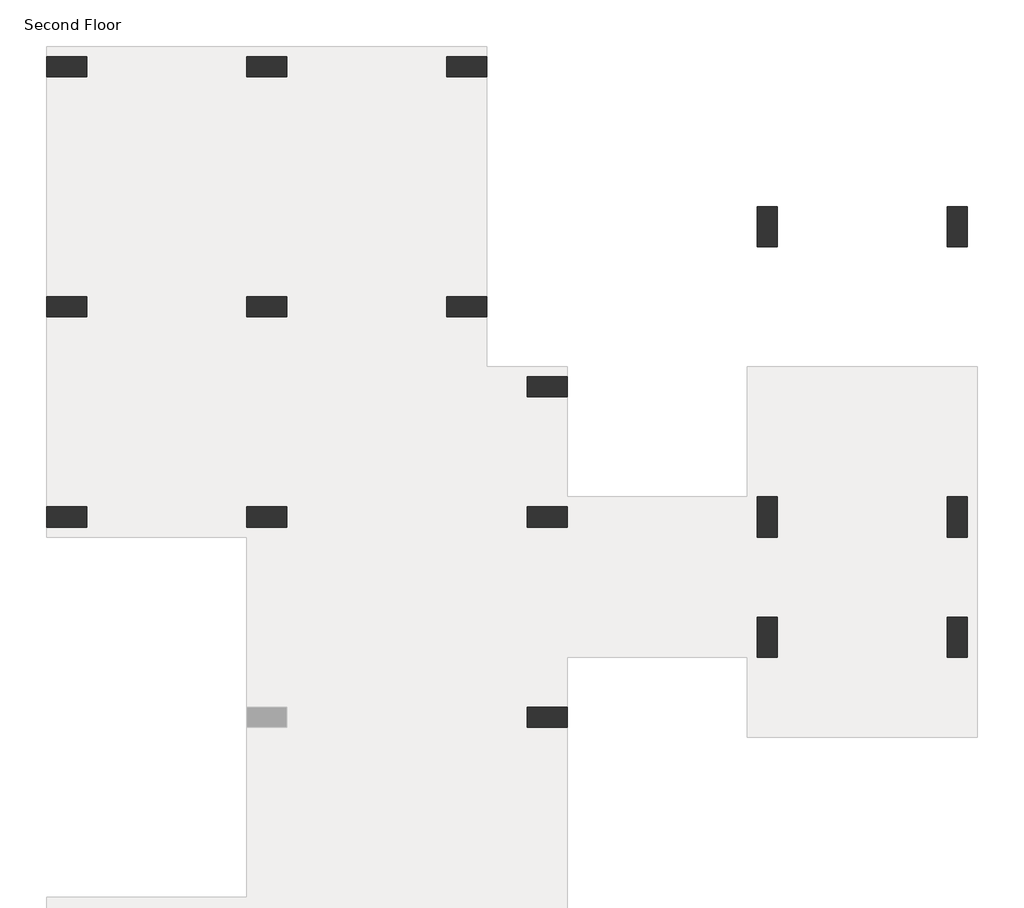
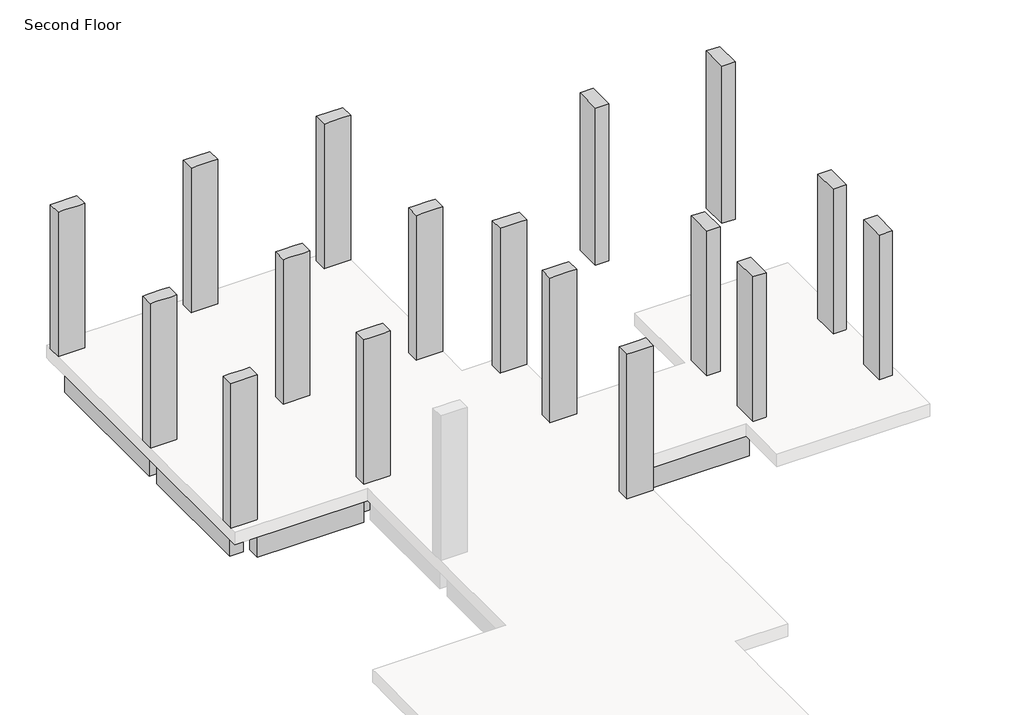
# One storey, part 2 of 2: 20 beams, 17 columns.
"""IFC4 building model written with IfcOpenShell, lengths in millimetres."""

from ifc_helpers import new_model, si_unit, frame, origin, place, context, project, spatial, polyline, outline, extrude, faceted_brep, element, save

model = new_model("IFC4")

# Units and contexts
model_context = context("Model", 3, world=origin())
ifc_project = project(units=[si_unit("LENGTHUNIT", "METRE", prefix="MILLI")], contexts=[model_context])

# Site, building, storey
site = spatial("IfcSite", under=ifc_project)
building = spatial("IfcBuilding", under=site)
storey = spatial("IfcBuildingStorey", under=building, Name="Second Floor", Elevation=3810.0)

# Beams
placement = place(None, origin())
element("IfcBeam", 1, ObjectType="Concrete-Rectangular Beam : 12 x 24", at=placement, inside=storey, context=model_context, shape_type="SweptSolid", body=[
    extrude(outline(polyline([(-12919.1663981, 10274.1487848), (-12919.1663981, 9969.3487848), (-15357.5663981, 9969.3487848), (-15357.5663981, 10274.1487848), (-12919.1663981, 10274.1487848)])), frame((0.0, 0.0, 2895.6), z_axis=(0.0, 0.0, 1.0), x_axis=(1.0, 0.0, 0.0)), (0.0, 0.0, 1.0), 609.6),
])
element("IfcBeam", 2, ObjectType="Concrete-Rectangular Beam : 12 x 24", at=placement, inside=storey, context=model_context, shape_type="SweptSolid", body=[
    extrude(outline(polyline([(-9871.1663981, 10274.1487848), (-9871.1663981, 9969.3487848), (-12309.5663981, 9969.3487848), (-12309.5663981, 10274.1487848), (-9871.1663981, 10274.1487848)])), frame((0.0, 0.0, 2895.6), z_axis=(0.0, 0.0, 1.0), x_axis=(1.0, 0.0, 0.0)), (0.0, 0.0, 1.0), 609.6),
])
element("IfcBeam", 3, ObjectType="Concrete-Rectangular Beam : 12 x 24", at=placement, inside=storey, context=model_context, shape_type="SweptSolid", body=[
    extrude(outline(polyline([(-15509.9663981, 6616.5487848), (-15814.7663981, 6616.5487848), (-15814.7663981, 9969.3487848), (-15509.9663981, 9969.3487848), (-15509.9663981, 6616.5487848)])), frame((0.0, 0.0, 2895.6), z_axis=(0.0, 0.0, 1.0), x_axis=(1.0, 0.0, 0.0)), (0.0, 0.0, 1.0), 609.6),
])
element("IfcBeam", 4, ObjectType="Concrete-Rectangular Beam : 12 x 24", at=placement, inside=storey, context=model_context, shape_type="SweptSolid", body=[
    extrude(outline(polyline([(-15509.9663981, 3416.1487848), (-15814.7663981, 3416.1487848), (-15814.7663981, 6311.7487848), (-15509.9663981, 6311.7487848), (-15509.9663981, 3416.1487848)])), frame((0.0, 0.0, 2895.6), z_axis=(0.0, 0.0, 1.0), x_axis=(1.0, 0.0, 0.0)), (0.0, 0.0, 1.0), 609.6),
])
element("IfcBeam", 5, ObjectType="Concrete-Rectangular Beam : 12 x 24", at=placement, inside=storey, context=model_context, shape_type="SweptSolid", body=[
    extrude(outline(polyline([(-9413.9663981, 6616.5487848), (-9718.7663981, 6616.5487848), (-9718.7663981, 9969.3487848), (-9413.9663981, 9969.3487848), (-9413.9663981, 6616.5487848)])), frame((0.0, 0.0, 2895.6), z_axis=(0.0, 0.0, 1.0), x_axis=(1.0, 0.0, 0.0)), (0.0, 0.0, 1.0), 609.6),
])
element("IfcBeam", 6, ObjectType="Concrete-Rectangular Beam : 12 x 24", at=placement, inside=storey, context=model_context, shape_type="SweptSolid", body=[
    extrude(outline(polyline([(-12461.9663981, 6616.5487848), (-12766.7663981, 6616.5487848), (-12766.7663981, 9969.3487848), (-12461.9663981, 9969.3487848), (-12461.9663981, 6616.5487848)])), frame((0.0, 0.0, 2895.6), z_axis=(0.0, 0.0, 1.0), x_axis=(1.0, 0.0, 0.0)), (0.0, 0.0, 1.0), 609.6),
])
element("IfcBeam", 7, ObjectType="Concrete-Rectangular Beam : 12 x 24", at=placement, inside=storey, context=model_context, shape_type="SweptSolid", body=[
    extrude(outline(polyline([(-12919.1663981, 6616.5487848), (-12919.1663981, 6311.7487848), (-15357.5663981, 6311.7487848), (-15357.5663981, 6616.5487848), (-12919.1663981, 6616.5487848)])), frame((0.0, 0.0, 2895.6), z_axis=(0.0, 0.0, 1.0), x_axis=(1.0, 0.0, 0.0)), (0.0, 0.0, 1.0), 609.6),
])
element("IfcBeam", 8, ObjectType="Concrete-Rectangular Beam : 12 x 24", at=placement, inside=storey, context=model_context, shape_type="SweptSolid", body=[
    extrude(outline(polyline([(-9871.1663981, 6616.5487848), (-9871.1663981, 6311.7487848), (-12309.5663981, 6311.7487848), (-12309.5663981, 6616.5487848), (-9871.1663981, 6616.5487848)])), frame((0.0, 0.0, 2895.6), z_axis=(0.0, 0.0, 1.0), x_axis=(1.0, 0.0, 0.0)), (0.0, 0.0, 1.0), 609.6),
])
element("IfcBeam", 9, ObjectType="Concrete-Rectangular Beam : 12 x 24", at=placement, inside=storey, context=model_context, shape_type="SweptSolid", body=[
    extrude(outline(polyline([(-12919.1663981, 3416.1487848), (-12919.1663981, 3111.3487848), (-15357.5663981, 3111.3487848), (-15357.5663981, 3416.1487848), (-12919.1663981, 3416.1487848)])), frame((0.0, 0.0, 2895.6), z_axis=(0.0, 0.0, 1.0), x_axis=(1.0, 0.0, 0.0)), (0.0, 0.0, 1.0), 609.6),
])
element("IfcBeam", 10, ObjectType="Concrete-Rectangular Beam : 12 x 24", at=placement, inside=storey, context=model_context, shape_type="SweptSolid", body=[
    extrude(outline(polyline([(-8651.9663981, 3416.1487848), (-8651.9663981, 3111.3487848), (-12309.5663981, 3111.3487848), (-12309.5663981, 3416.1487848), (-8651.9663981, 3416.1487848)])), frame((0.0, 0.0, 2895.6), z_axis=(0.0, 0.0, 1.0), x_axis=(1.0, 0.0, 0.0)), (0.0, 0.0, 1.0), 609.6),
])
element("IfcBeam", 11, ObjectType="Concrete-Rectangular Beam : 12 x 24", at=placement, inside=storey, context=model_context, shape_type="Brep", body=[
    faceted_brep([(-8651.9663981, 5092.5487848, 3505.2), (-8651.9663981, 5397.3487848, 3505.2), (-9413.9663981, 5397.3487848, 3505.2), (-9718.7663981, 5397.3487848, 3505.2), (-9718.7663981, 5092.5487848, 3505.2), (-8651.9663981, 5397.3487848, 2895.6), (-9413.9663981, 5397.3487848, 2895.6), (-9718.7663981, 5397.3487848, 2895.6), (-8651.9663981, 5092.5487848, 2895.6), (-9718.7663981, 5092.5487848, 2895.6)], [[[0, 1, 2, 3, 4]], [[1, 5, 6, 7, 3, 2]], [[5, 8, 9, 7, 6]], [[8, 0, 4, 9]], [[0, 8, 5, 1]], [[4, 3, 7, 9]]]),
])
element("IfcBeam", 12, ObjectType="Concrete-Rectangular Beam : 12 x 24", at=placement, inside=storey, context=model_context, shape_type="SweptSolid", body=[
    extrude(outline(polyline([(-9718.7663981, 6311.7487848), (-9413.9663981, 6311.7487848), (-9413.9663981, 5397.3487848), (-9718.7663981, 5397.3487848), (-9718.7663981, 6311.7487848)])), frame((0.0, 0.0, 2895.6), z_axis=(0.0, 0.0, 1.0), x_axis=(1.0, 0.0, 0.0)), (0.0, 0.0, 1.0), 609.6),
])
element("IfcBeam", 13, ObjectType="Concrete-Rectangular Beam : 12 x 24", at=placement, inside=storey, context=model_context, shape_type="SweptSolid", body=[
    extrude(outline(polyline([(-8194.7663981, 3416.1487848), (-8499.5663981, 3416.1487848), (-8499.5663981, 5092.5487848), (-8194.7663981, 5092.5487848), (-8194.7663981, 3416.1487848)])), frame((0.0, 0.0, 2895.6), z_axis=(0.0, 0.0, 1.0), x_axis=(1.0, 0.0, 0.0)), (0.0, 0.0, 1.0), 609.6),
])
element("IfcBeam", 14, ObjectType="Concrete-Rectangular Beam : 12 x 24", at=placement, inside=storey, context=model_context, shape_type="SweptSolid", body=[
    extrude(outline(polyline([(-12461.9663981, 3416.1487848), (-12766.7663981, 3416.1487848), (-12766.7663981, 6311.7487848), (-12461.9663981, 6311.7487848), (-12461.9663981, 3416.1487848)])), frame((0.0, 0.0, 2895.6), z_axis=(0.0, 0.0, 1.0), x_axis=(1.0, 0.0, 0.0)), (0.0, 0.0, 1.0), 609.6),
])
element("IfcBeam", 15, ObjectType="Concrete-Rectangular Beam : 12 x 24", at=placement, inside=storey, context=model_context, shape_type="SweptSolid", body=[
    extrude(outline(polyline([(-8042.3663981, 3111.3487848), (-8042.3663981, 3416.1487848), (-5146.7663981, 3416.1487848), (-5146.7663981, 3111.3487848), (-8042.3663981, 3111.3487848)])), frame((0.0, 0.0, 2895.6), z_axis=(0.0, 0.0, 1.0), x_axis=(1.0, 0.0, 0.0)), (0.0, 0.0, 1.0), 609.6),
])
element("IfcBeam", 16, ObjectType="Concrete-Rectangular Beam : 12 x 24", at=placement, inside=storey, context=model_context, shape_type="Brep", body=[
    faceted_brep([(-8499.5663981, 368.1487848, 3505.2), (-8194.7663981, 368.1487848, 3505.2), (-8194.7663981, 1282.5487848, 3505.2), (-8194.7663981, 1587.3487848, 3505.2), (-8194.7663981, 3111.3487848, 3505.2), (-8499.5663981, 3111.3487848, 3505.2), (-8499.5663981, 368.1487848, 2895.6), (-8499.5663981, 3111.3487848, 2895.6), (-8194.7663981, 368.1487848, 2895.6), (-8194.7663981, 3111.3487848, 2895.6), (-8194.7663981, 1587.3487848, 2895.6), (-8194.7663981, 1282.5487848, 2895.6)], [[[0, 1, 2, 3, 4, 5]], [[6, 0, 5, 7]], [[8, 6, 7, 9, 10, 11]], [[1, 8, 11, 10, 9, 4, 3, 2]], [[4, 9, 7, 5]], [[1, 0, 6, 8]]]),
])
element("IfcBeam", 17, ObjectType="Concrete-Rectangular Beam : 12 x 24", at=placement, inside=storey, context=model_context, shape_type="SweptSolid", body=[
    extrude(outline(polyline([(-8194.7663981, 1282.5487848), (-8194.7663981, 1587.3487848), (-5146.7663981, 1587.3487848), (-5146.7663981, 1282.5487848), (-8194.7663981, 1282.5487848)])), frame((0.0, 0.0, 2895.6), z_axis=(0.0, 0.0, 1.0), x_axis=(1.0, 0.0, 0.0)), (0.0, 0.0, 1.0), 609.6),
])
element("IfcBeam", 18, ObjectType="Concrete-Rectangular Beam : 12 x 24", at=placement, inside=storey, context=model_context, shape_type="SweptSolid", body=[
    extrude(outline(polyline([(-8651.9663981, 368.1487848), (-8651.9663981, 63.3487848), (-12309.5663981, 63.3487848), (-12309.5663981, 368.1487848), (-8651.9663981, 368.1487848)])), frame((0.0, 0.0, 2895.6), z_axis=(0.0, 0.0, 1.0), x_axis=(1.0, 0.0, 0.0)), (0.0, 0.0, 1.0), 609.6),
])
element("IfcBeam", 19, ObjectType="Concrete-Rectangular Beam : 12 x 24", at=placement, inside=storey, context=model_context, shape_type="SweptSolid", body=[
    extrude(outline(polyline([(-4841.9663981, 3111.3487848), (-4841.9663981, 3416.1487848), (-2251.1663981, 3416.1487848), (-2251.1663981, 3111.3487848), (-4841.9663981, 3111.3487848)])), frame((0.0, 0.0, 2895.6), z_axis=(0.0, 0.0, 1.0), x_axis=(1.0, 0.0, 0.0)), (0.0, 0.0, 1.0), 609.6),
])
element("IfcBeam", 20, ObjectType="Concrete-Rectangular Beam : 12 x 24", at=placement, inside=storey, context=model_context, shape_type="SweptSolid", body=[
    extrude(outline(polyline([(-4841.9663981, 1282.5487848), (-4841.9663981, 1587.3487848), (-2251.1663981, 1587.3487848), (-2251.1663981, 1282.5487848), (-4841.9663981, 1282.5487848)])), frame((0.0, 0.0, 2895.6), z_axis=(0.0, 0.0, 1.0), x_axis=(1.0, 0.0, 0.0)), (0.0, 0.0, 1.0), 609.6),
])

# Columns
element("IfcColumn", 21, ObjectType="Concrete-Rectangular-Column : 12 x 24", at=placement, inside=storey, context=model_context, shape_type="Brep", body=[
    faceted_brep([(-15967.1663981, 10274.1487848, 3810.0), (-15357.5663981, 10274.1487848, 3810.0), (-15357.5663981, 9969.3487848, 3810.0), (-15967.1663981, 9969.3487848, 3810.0), (-15967.1663981, 10274.1487848, 7315.2), (-15357.5663981, 10274.1487848, 7315.2), (-15357.5663981, 10274.1487848, 6705.6), (-15357.5663981, 9969.3487848, 7315.2), (-15357.5663981, 9969.3487848, 6705.6), (-15509.9663981, 9969.3487848, 7315.2), (-15814.7663981, 9969.3487848, 7315.2), (-15967.1663981, 9969.3487848, 7315.2)], [[[0, 1, 2, 3]], [[4, 5, 6, 1, 0]], [[5, 7, 8, 2, 1, 6]], [[7, 9, 10, 11, 3, 2, 8]], [[11, 4, 0, 3]], [[4, 11, 10, 9, 7, 5]]]),
])
element("IfcColumn", 22, ObjectType="Concrete-Rectangular-Column : 12 x 24", at=placement, inside=storey, context=model_context, shape_type="Brep", body=[
    faceted_brep([(-15967.1663981, 6616.5487848, 3810.0), (-15357.5663981, 6616.5487848, 3810.0), (-15357.5663981, 6311.7487848, 3810.0), (-15967.1663981, 6311.7487848, 3810.0), (-15967.1663981, 6616.5487848, 7315.2), (-15814.7663981, 6616.5487848, 7315.2), (-15509.9663981, 6616.5487848, 7315.2), (-15357.5663981, 6616.5487848, 7315.2), (-15357.5663981, 6616.5487848, 6705.6), (-15357.5663981, 6311.7487848, 7315.2), (-15357.5663981, 6311.7487848, 6705.6), (-15509.9663981, 6311.7487848, 7315.2), (-15814.7663981, 6311.7487848, 7315.2), (-15967.1663981, 6311.7487848, 7315.2)], [[[0, 1, 2, 3]], [[4, 5, 6, 7, 8, 1, 0]], [[7, 9, 10, 2, 1, 8]], [[9, 11, 12, 13, 3, 2, 10]], [[13, 4, 0, 3]], [[4, 13, 12, 11, 9, 7, 6, 5]]]),
])
element("IfcColumn", 23, ObjectType="Concrete-Rectangular-Column : 12 x 24", at=placement, inside=storey, context=model_context, shape_type="Brep", body=[
    faceted_brep([(-15967.1663981, 3416.1487848, 3810.0), (-15357.5663981, 3416.1487848, 3810.0), (-15357.5663981, 3111.3487848, 3810.0), (-15967.1663981, 3111.3487848, 3810.0), (-15967.1663981, 3416.1487848, 7315.2), (-15814.7663981, 3416.1487848, 7315.2), (-15509.9663981, 3416.1487848, 7315.2), (-15357.5663981, 3416.1487848, 7315.2), (-15357.5663981, 3416.1487848, 6705.6), (-15357.5663981, 3111.3487848, 7315.2), (-15357.5663981, 3111.3487848, 6705.6), (-15967.1663981, 3111.3487848, 7315.2)], [[[0, 1, 2, 3]], [[4, 5, 6, 7, 8, 1, 0]], [[7, 9, 10, 2, 1, 8]], [[9, 11, 3, 2, 10]], [[11, 4, 0, 3]], [[4, 11, 9, 7, 6, 5]]]),
])
element("IfcColumn", 24, ObjectType="Concrete-Rectangular-Column : 12 x 24", at=placement, inside=storey, context=model_context, shape_type="Brep", body=[
    faceted_brep([(-12919.1663981, 3416.1487848, 3810.0), (-12309.5663981, 3416.1487848, 3810.0), (-12309.5663981, 3111.3487848, 3810.0), (-12919.1663981, 3111.3487848, 3810.0), (-12919.1663981, 3416.1487848, 7315.2), (-12766.7663981, 3416.1487848, 7315.2), (-12461.9663981, 3416.1487848, 7315.2), (-12309.5663981, 3416.1487848, 7315.2), (-12309.5663981, 3416.1487848, 6705.6), (-12919.1663981, 3416.1487848, 6705.6), (-12309.5663981, 3111.3487848, 7315.2), (-12309.5663981, 3111.3487848, 6705.6), (-12461.9663981, 3111.3487848, 7315.2), (-12766.7663981, 3111.3487848, 7315.2), (-12919.1663981, 3111.3487848, 7315.2), (-12919.1663981, 3111.3487848, 6705.6)], [[[0, 1, 2, 3]], [[4, 5, 6, 7, 8, 1, 0, 9]], [[7, 10, 11, 2, 1, 8]], [[10, 12, 13, 14, 15, 3, 2, 11]], [[14, 4, 9, 0, 3, 15]], [[4, 14, 13, 12, 10, 7, 6, 5]]]),
])
element("IfcColumn", 25, ObjectType="Concrete-Rectangular-Column : 12 x 24", at=placement, inside=storey, context=model_context, shape_type="Brep", body=[
    faceted_brep([(-12919.1663981, 6616.5487848, 3810.0), (-12309.5663981, 6616.5487848, 3810.0), (-12309.5663981, 6311.7487848, 3810.0), (-12919.1663981, 6311.7487848, 3810.0), (-12919.1663981, 6616.5487848, 7315.2), (-12766.7663981, 6616.5487848, 7315.2), (-12461.9663981, 6616.5487848, 7315.2), (-12309.5663981, 6616.5487848, 7315.2), (-12309.5663981, 6616.5487848, 6705.6), (-12919.1663981, 6616.5487848, 6705.6), (-12309.5663981, 6311.7487848, 7315.2), (-12309.5663981, 6311.7487848, 6705.6), (-12461.9663981, 6311.7487848, 7315.2), (-12766.7663981, 6311.7487848, 7315.2), (-12919.1663981, 6311.7487848, 7315.2), (-12919.1663981, 6311.7487848, 6705.6)], [[[0, 1, 2, 3]], [[4, 5, 6, 7, 8, 1, 0, 9]], [[7, 10, 11, 2, 1, 8]], [[10, 12, 13, 14, 15, 3, 2, 11]], [[14, 4, 9, 0, 3, 15]], [[4, 14, 13, 12, 10, 7, 6, 5]]]),
])
element("IfcColumn", 26, ObjectType="Concrete-Rectangular-Column : 12 x 24", at=placement, inside=storey, context=model_context, shape_type="Brep", body=[
    faceted_brep([(-12919.1663981, 10274.1487848, 3810.0), (-12309.5663981, 10274.1487848, 3810.0), (-12309.5663981, 9969.3487848, 3810.0), (-12919.1663981, 9969.3487848, 3810.0), (-12919.1663981, 10274.1487848, 7315.2), (-12309.5663981, 10274.1487848, 7315.2), (-12309.5663981, 10274.1487848, 6705.6), (-12919.1663981, 10274.1487848, 6705.6), (-12309.5663981, 9969.3487848, 7315.2), (-12309.5663981, 9969.3487848, 6705.6), (-12461.9663981, 9969.3487848, 7315.2), (-12766.7663981, 9969.3487848, 7315.2), (-12919.1663981, 9969.3487848, 7315.2), (-12919.1663981, 9969.3487848, 6705.6)], [[[0, 1, 2, 3]], [[4, 5, 6, 1, 0, 7]], [[5, 8, 9, 2, 1, 6]], [[8, 10, 11, 12, 13, 3, 2, 9]], [[12, 4, 7, 0, 3, 13]], [[4, 12, 11, 10, 8, 5]]]),
])
element("IfcColumn", 27, ObjectType="Concrete-Rectangular-Column : 12 x 24", at=placement, inside=storey, context=model_context, shape_type="Brep", body=[
    faceted_brep([(-9871.1663981, 10274.1487848, 3810.0), (-9261.5663981, 10274.1487848, 3810.0), (-9261.5663981, 9969.3487848, 3810.0), (-9871.1663981, 9969.3487848, 3810.0), (-9871.1663981, 10274.1487848, 7315.2), (-9261.5663981, 10274.1487848, 7315.2), (-9871.1663981, 10274.1487848, 6705.6), (-9261.5663981, 9969.3487848, 7315.2), (-9413.9663981, 9969.3487848, 7315.2), (-9718.7663981, 9969.3487848, 7315.2), (-9871.1663981, 9969.3487848, 7315.2), (-9871.1663981, 9969.3487848, 6705.6)], [[[0, 1, 2, 3]], [[4, 5, 1, 0, 6]], [[5, 7, 2, 1]], [[7, 8, 9, 10, 11, 3, 2]], [[10, 4, 6, 0, 3, 11]], [[4, 10, 9, 8, 7, 5]]]),
])
element("IfcColumn", 28, ObjectType="Concrete-Rectangular-Column : 12 x 24", at=placement, inside=storey, context=model_context, shape_type="Brep", body=[
    faceted_brep([(-9871.1663981, 6616.5487848, 3810.0), (-9261.5663981, 6616.5487848, 3810.0), (-9261.5663981, 6311.7487848, 3810.0), (-9871.1663981, 6311.7487848, 3810.0), (-9871.1663981, 6616.5487848, 7315.2), (-9718.7663981, 6616.5487848, 7315.2), (-9413.9663981, 6616.5487848, 7315.2), (-9261.5663981, 6616.5487848, 7315.2), (-9871.1663981, 6616.5487848, 6705.6), (-9261.5663981, 6311.7487848, 7315.2), (-9413.9663981, 6311.7487848, 7315.2), (-9718.7663981, 6311.7487848, 7315.2), (-9871.1663981, 6311.7487848, 7315.2), (-9871.1663981, 6311.7487848, 6705.6)], [[[0, 1, 2, 3]], [[4, 5, 6, 7, 1, 0, 8]], [[7, 9, 2, 1]], [[9, 10, 11, 12, 13, 3, 2]], [[12, 4, 8, 0, 3, 13]], [[4, 12, 11, 10, 9, 7, 6, 5]]]),
])
element("IfcColumn", 29, ObjectType="Concrete-Rectangular-Column : 12 x 24", at=placement, inside=storey, context=model_context, shape_type="Brep", body=[
    faceted_brep([(-8651.9663981, 5397.3487848, 3810.0), (-8042.3663981, 5397.3487848, 3810.0), (-8042.3663981, 5092.5487848, 3810.0), (-8651.9663981, 5092.5487848, 3810.0), (-8651.9663981, 5397.3487848, 7315.2), (-8042.3663981, 5397.3487848, 7315.2), (-8651.9663981, 5397.3487848, 6705.6), (-8042.3663981, 5092.5487848, 7315.2), (-8194.7663981, 5092.5487848, 7315.2), (-8499.5663981, 5092.5487848, 7315.2), (-8651.9663981, 5092.5487848, 7315.2), (-8651.9663981, 5092.5487848, 6705.6)], [[[0, 1, 2, 3]], [[4, 5, 1, 0, 6]], [[5, 7, 2, 1]], [[7, 8, 9, 10, 11, 3, 2]], [[10, 4, 6, 0, 3, 11]], [[4, 10, 9, 8, 7, 5]]]),
])
element("IfcColumn", 30, ObjectType="Concrete-Rectangular-Column : 12 x 24", at=placement, inside=storey, context=model_context, shape_type="Brep", body=[
    faceted_brep([(-8651.9663981, 3416.1487848, 3810.0), (-8042.3663981, 3416.1487848, 3810.0), (-8042.3663981, 3111.3487848, 3810.0), (-8651.9663981, 3111.3487848, 3810.0), (-8651.9663981, 3416.1487848, 7315.2), (-8499.5663981, 3416.1487848, 7315.2), (-8194.7663981, 3416.1487848, 7315.2), (-8042.3663981, 3416.1487848, 7315.2), (-8042.3663981, 3416.1487848, 6705.6), (-8651.9663981, 3416.1487848, 6705.6), (-8042.3663981, 3111.3487848, 7315.2), (-8042.3663981, 3111.3487848, 6705.6), (-8194.7663981, 3111.3487848, 7315.2), (-8499.5663981, 3111.3487848, 7315.2), (-8651.9663981, 3111.3487848, 7315.2), (-8651.9663981, 3111.3487848, 6705.6)], [[[0, 1, 2, 3]], [[4, 5, 6, 7, 8, 1, 0, 9]], [[7, 10, 11, 2, 1, 8]], [[10, 12, 13, 14, 15, 3, 2, 11]], [[14, 4, 9, 0, 3, 15]], [[4, 14, 13, 12, 10, 7, 6, 5]]]),
])
element("IfcColumn", 31, ObjectType="Concrete-Rectangular-Column : 12 x 24", at=placement, inside=storey, context=model_context, shape_type="Brep", body=[
    faceted_brep([(-8651.9663981, 368.1487848, 3810.0), (-8042.3663981, 368.1487848, 3810.0), (-8042.3663981, 63.3487848, 3810.0), (-8651.9663981, 63.3487848, 3810.0), (-8651.9663981, 368.1487848, 7315.2), (-8499.5663981, 368.1487848, 7315.2), (-8194.7663981, 368.1487848, 7315.2), (-8042.3663981, 368.1487848, 7315.2), (-8651.9663981, 368.1487848, 6705.6), (-8042.3663981, 63.3487848, 7315.2), (-8194.7663981, 63.3487848, 7315.2), (-8499.5663981, 63.3487848, 7315.2), (-8651.9663981, 63.3487848, 7315.2), (-8651.9663981, 63.3487848, 6705.6)], [[[0, 1, 2, 3]], [[4, 5, 6, 7, 1, 0, 8]], [[7, 9, 2, 1]], [[9, 10, 11, 12, 13, 3, 2]], [[12, 4, 8, 0, 3, 13]], [[4, 12, 11, 10, 9, 7, 6, 5]]]),
])
element("IfcColumn", 32, ObjectType="Concrete-Rectangular-Column : 12 x 24", at=placement, inside=storey, context=model_context, shape_type="Brep", body=[
    faceted_brep([(-5146.7663981, 2958.9487848, 3810.0), (-5146.7663981, 3568.5487848, 3810.0), (-4841.9663981, 3568.5487848, 3810.0), (-4841.9663981, 2958.9487848, 3810.0), (-5146.7663981, 2958.9487848, 7010.4), (-5146.7663981, 2958.9487848, 7315.2), (-5146.7663981, 3568.5487848, 7315.2), (-4841.9663981, 3568.5487848, 7315.2), (-4841.9663981, 2958.9487848, 7315.2), (-4841.9663981, 2958.9487848, 7010.4)], [[[0, 1, 2, 3]], [[1, 0, 4, 5, 6]], [[2, 1, 6, 7]], [[3, 2, 7, 8, 9]], [[0, 3, 9, 8, 5, 4]], [[6, 5, 8, 7]]]),
])
element("IfcColumn", 33, ObjectType="Concrete-Rectangular-Column : 12 x 24", at=placement, inside=storey, context=model_context, shape_type="Brep", body=[
    faceted_brep([(-2251.1663981, 2958.9487848, 3810.0), (-2251.1663981, 3568.5487848, 3810.0), (-1946.3663981, 3568.5487848, 3810.0), (-1946.3663981, 2958.9487848, 3810.0), (-2251.1663981, 2958.9487848, 7010.4), (-2251.1663981, 2958.9487848, 7315.2), (-2251.1663981, 3568.5487848, 7315.2), (-1946.3663981, 3568.5487848, 7315.2), (-1946.3663981, 2958.9487848, 7315.2), (-1946.3663981, 2958.9487848, 7010.4)], [[[0, 1, 2, 3]], [[1, 0, 4, 5, 6]], [[2, 1, 6, 7]], [[3, 2, 7, 8, 9]], [[0, 3, 9, 8, 5, 4]], [[6, 5, 8, 7]]]),
])
element("IfcColumn", 34, ObjectType="Concrete-Rectangular-Column : 12 x 24", at=placement, inside=storey, context=model_context, shape_type="Brep", body=[
    faceted_brep([(-5146.7663981, 1130.1487848, 3810.0), (-5146.7663981, 1739.7487848, 3810.0), (-4841.9663981, 1739.7487848, 3810.0), (-4841.9663981, 1130.1487848, 3810.0), (-5146.7663981, 1130.1487848, 7315.2), (-5146.7663981, 1739.7487848, 7315.2), (-5146.7663981, 1739.7487848, 7010.4), (-4841.9663981, 1739.7487848, 7315.2), (-4841.9663981, 1739.7487848, 7010.4), (-4841.9663981, 1130.1487848, 7315.2)], [[[0, 1, 2, 3]], [[1, 0, 4, 5, 6]], [[2, 1, 6, 5, 7, 8]], [[3, 2, 8, 7, 9]], [[0, 3, 9, 4]], [[5, 4, 9, 7]]]),
])
element("IfcColumn", 35, ObjectType="Concrete-Rectangular-Column : 12 x 24", at=placement, inside=storey, context=model_context, shape_type="Brep", body=[
    faceted_brep([(-2251.1663981, 1130.1487848, 3810.0), (-2251.1663981, 1739.7487848, 3810.0), (-1946.3663981, 1739.7487848, 3810.0), (-1946.3663981, 1130.1487848, 3810.0), (-2251.1663981, 1130.1487848, 7315.2), (-2251.1663981, 1739.7487848, 7315.2), (-2251.1663981, 1739.7487848, 7010.4), (-1946.3663981, 1739.7487848, 7315.2), (-1946.3663981, 1739.7487848, 7010.4), (-1946.3663981, 1130.1487848, 7315.2)], [[[0, 1, 2, 3]], [[1, 0, 4, 5, 6]], [[2, 1, 6, 5, 7, 8]], [[3, 2, 8, 7, 9]], [[0, 3, 9, 4]], [[5, 4, 9, 7]]]),
])
element("IfcColumn", 36, ObjectType="Concrete-Rectangular-Column : 12 x 24", at=placement, inside=storey, context=model_context, shape_type="SweptSolid", body=[
    extrude(outline(polyline([(-5146.7663981, 7378.5487848), (-5146.7663981, 7988.1487848), (-4841.9663981, 7988.1487848), (-4841.9663981, 7378.5487848), (-5146.7663981, 7378.5487848)])), frame((0.0, 0.0, 3810.0), z_axis=(0.0, 0.0, 1.0), x_axis=(1.0, 0.0, 0.0)), (0.0, 0.0, 1.0), 3810.0),
])
element("IfcColumn", 37, ObjectType="Concrete-Rectangular-Column : 12 x 24", at=placement, inside=storey, context=model_context, shape_type="SweptSolid", body=[
    extrude(outline(polyline([(-2251.1663981, 7378.5487848), (-2251.1663981, 7988.1487848), (-1946.3663981, 7988.1487848), (-1946.3663981, 7378.5487848), (-2251.1663981, 7378.5487848)])), frame((0.0, 0.0, 3810.0), z_axis=(0.0, 0.0, 1.0), x_axis=(1.0, 0.0, 0.0)), (0.0, 0.0, 1.0), 3810.0),
])

save(model, "model.ifc")
